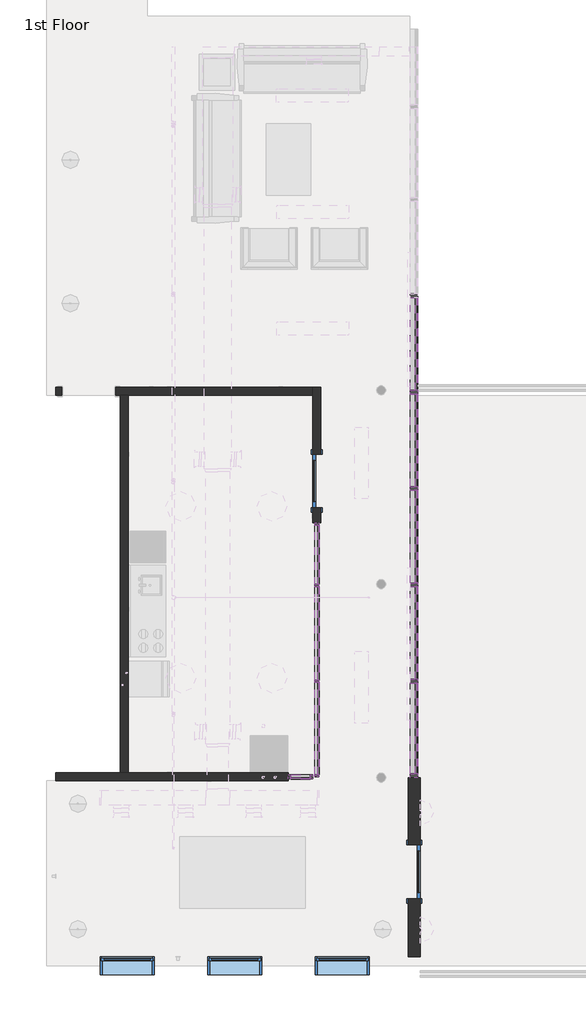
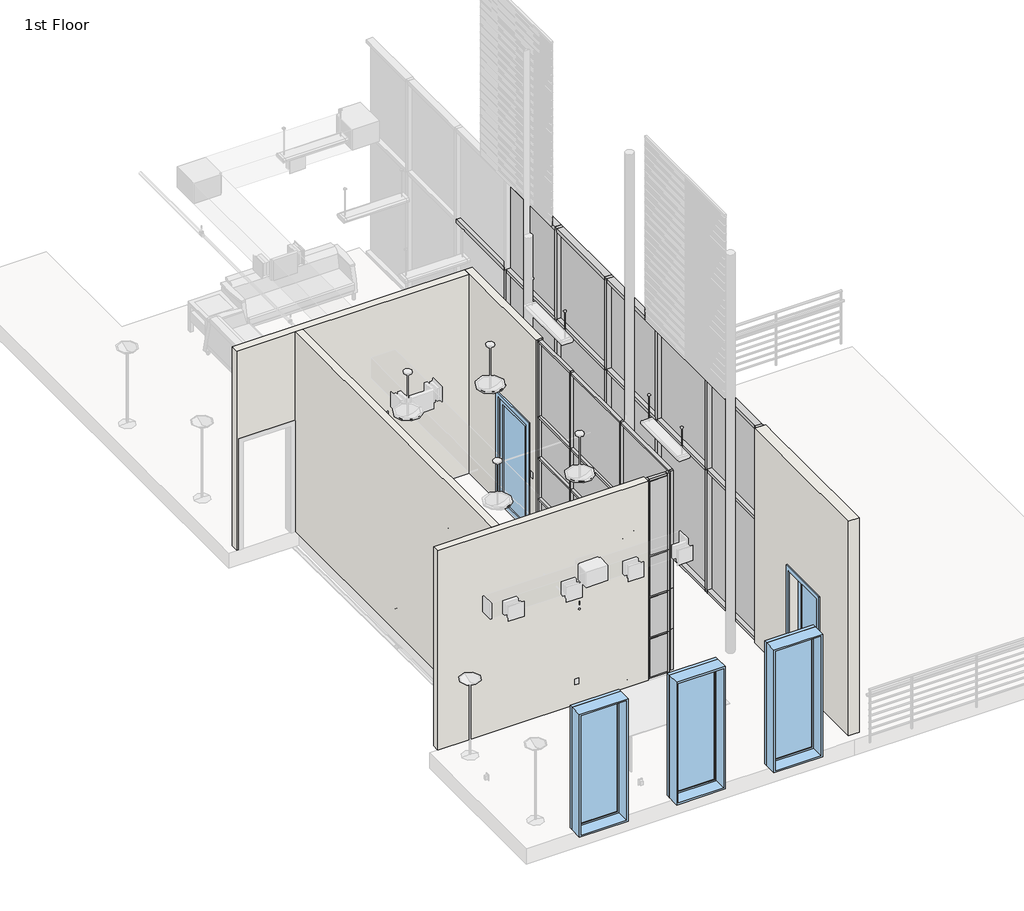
# One storey, part 1 of 4: 71 members, 26 plates, 5 walls, 5 windows.
"""IFC4 building model written with IfcOpenShell, lengths in millimetres."""

from ifc_helpers import new_model, si_unit, frame, origin, place, context, project, spatial, polyline, outline, extrude, faceted_brep, transform, mapped, element, save
from components import member_155beb68, member_b87a50da, member_3d7f9b7e, member_a096cd44, member_be47aeaa, member_5efed619, member_481e25ef, member_17fda1fe, member_40da84cb, member_2046a979, member_b31159f8, member_b36b38ba, member_d60e8053, member_2fae0574, member_7ffb4a7b, member_f0fea5a5, member_591cd9a7, member_ec06d1cd, member_6ce1ec76, member_ee409385, system_panel_system_panel_37b3a9aa, system_panel_system_panel_380796df, system_panel_system_panel_9bcd561b, system_panel_system_panel_56f1232b, system_panel_system_panel_8c290c1e, system_panel_system_panel_41236b11, system_panel_system_panel_6c834083, system_panel_system_panel_459aa32f, system_panel_system_panel_5d59a0b6, system_panel_system_panel_d2f40076, system_panel_system_panel_36b3ad26, system_panel_system_panel_1b284ea7, system_panel_system_panel_dfb6c3b7, system_panel_system_panel_f518bfc7, system_panel_system_panel_9512511a, system_panel_system_panel_b5158d26, window_9a11fba4, window_57972af0, window_99bce362, window_e49b49a8

model = new_model("IFC4")

# Units and contexts
model_context = context("Model", 3, world=origin())
ifc_project = project(units=[si_unit("LENGTHUNIT", "METRE", prefix="MILLI")], contexts=[model_context])

# Site, building, storey
site = spatial("IfcSite", under=ifc_project)
building = spatial("IfcBuilding", under=site)
storey = spatial("IfcBuildingStorey", under=building, Name="1st Floor", Elevation=3657.6)

# Members
placement = place(None, origin())
member_shape = member_155beb68(model_context)
element("IfcMember", 1, ObjectType="Rectangular Mullion : 1.5\" x 2.5\" rectangular", at=placement, inside=storey, context=model_context, shape_type="MappedRepresentation", body=[
    mapped(member_shape, transform((-25.1604947, -371.7689983, 6096.0), x_axis=(0.0, -1.0, 0.0), y_axis=(-1.0, 0.0, 0.0), z_axis=(0.0, 0.0, -1.0))),
])
element("IfcMember", 2, ObjectType="Rectangular Mullion : 1.5\" x 2.5\" rectangular", at=placement, inside=storey, context=model_context, shape_type="MappedRepresentation", body=[
    mapped(member_shape, transform((-25.1604947, -1997.3689983, 6096.0), x_axis=(0.0, -1.0, 0.0), y_axis=(-1.0, 0.0, 0.0), z_axis=(0.0, 0.0, -1.0))),
])
member_2_shape = member_b87a50da(model_context)
element("IfcMember", 3, ObjectType="Rectangular Mullion : 1.5\" x 2.5\" rectangular", at=placement, inside=storey, context=model_context, shape_type="MappedRepresentation", body=[
    mapped(member_2_shape, transform((-25.1604947, 695.0310017, 7620.0), x_axis=(0.0, 1.0, 0.0), y_axis=(-1.0, 0.0, 0.0), z_axis=(0.0, 0.0, 1.0))),
])
element("IfcMember", 4, ObjectType="Rectangular Mullion : 1.5\" x 2.5\" rectangular", at=placement, inside=storey, context=model_context, shape_type="MappedRepresentation", body=[
    mapped(member_2_shape, transform((-95.0104947, -3622.9689983, 7620.0), x_axis=(1.0, 0.0, 0.0), y_axis=(0.0, 1.0, 0.0), z_axis=(0.0, 0.0, 1.0))),
])
element("IfcMember", 5, ObjectType="Rectangular Mullion : 1.5\" x 2.5\" rectangular", at=placement, inside=storey, context=model_context, shape_type="MappedRepresentation", body=[
    mapped(member_2_shape, transform((-25.1604947, -3622.9689983, 6096.0), x_axis=(0.0, -1.0, 0.0), y_axis=(-1.0, 0.0, 0.0), z_axis=(0.0, 0.0, -1.0))),
])
element("IfcMember", 6, ObjectType="Rectangular Mullion : 1.5\" x 2.5\" rectangular", at=placement, inside=storey, context=model_context, shape_type="MappedRepresentation", body=[
    mapped(member_2_shape, transform((-507.7604947, -3622.9689983, 6096.0), x_axis=(-1.0, 0.0, 0.0), y_axis=(0.0, 1.0, 0.0), z_axis=(0.0, 0.0, -1.0))),
])
member_3_shape = member_3d7f9b7e(model_context)
element("IfcMember", 7, ObjectType="Rectangular Mullion : 1.5\" x 2.5\" rectangular", at=placement, inside=storey, context=model_context, shape_type="MappedRepresentation", body=[
    mapped(member_3_shape, transform((-25.1604947, -352.7189983, 7620.0), x_axis=(0.0, 0.0, 1.0), y_axis=(-1.0, 0.0, 0.0), z_axis=(0.0, -1.0, 0.0))),
])
member_4_shape = member_a096cd44(model_context)
element("IfcMember", 8, ObjectType="Rectangular Mullion : 1.5\" x 2.5\" rectangular", at=placement, inside=storey, context=model_context, shape_type="MappedRepresentation", body=[
    mapped(member_4_shape, transform((-25.1604947, -3584.8689983, 7620.0), x_axis=(0.0, 0.0, 1.0), y_axis=(-1.0, 0.0, 0.0), z_axis=(0.0, -1.0, 0.0))),
])
member_5_shape = member_be47aeaa(model_context)
element("IfcMember", 9, ObjectType="Rectangular Mullion : 1.5\" x 2.5\" rectangular", at=placement, inside=storey, context=model_context, shape_type="MappedRepresentation", body=[
    mapped(member_5_shape, transform((-25.1604947, -371.7689983, 3657.6), x_axis=(0.0, -1.0, 0.0), y_axis=(-1.0, 0.0, 0.0), z_axis=(0.0, 0.0, -1.0))),
])
element("IfcMember", 10, ObjectType="Rectangular Mullion : 1.5\" x 2.5\" rectangular", at=placement, inside=storey, context=model_context, shape_type="MappedRepresentation", body=[
    mapped(member_5_shape, transform((-25.1604947, -1997.3689983, 3657.6), x_axis=(0.0, -1.0, 0.0), y_axis=(-1.0, 0.0, 0.0), z_axis=(0.0, 0.0, -1.0))),
])
member_6_shape = member_5efed619(model_context)
element("IfcMember", 11, ObjectType="Rectangular Mullion : 1.5\" x 2.5\" rectangular", at=placement, inside=storey, context=model_context, shape_type="MappedRepresentation", body=[
    mapped(member_6_shape, transform((-25.1604947, -352.7189983, 6096.0), x_axis=(0.0, 0.0, 1.0), y_axis=(-1.0, 0.0, 0.0), z_axis=(0.0, -1.0, 0.0))),
])
element("IfcMember", 12, ObjectType="Rectangular Mullion : 1.5\" x 2.5\" rectangular", at=placement, inside=storey, context=model_context, shape_type="MappedRepresentation", body=[
    mapped(member_6_shape, transform((-25.1604947, -352.7189983, 5283.2), x_axis=(0.0, 0.0, 1.0), y_axis=(-1.0, 0.0, 0.0), z_axis=(0.0, -1.0, 0.0))),
])
element("IfcMember", 13, ObjectType="Rectangular Mullion : 1.5\" x 2.5\" rectangular", at=placement, inside=storey, context=model_context, shape_type="MappedRepresentation", body=[
    mapped(member_6_shape, transform((-25.1604947, -352.7189983, 4470.4), x_axis=(0.0, 0.0, 1.0), y_axis=(-1.0, 0.0, 0.0), z_axis=(0.0, -1.0, 0.0))),
])
member_7_shape = member_481e25ef(model_context)
element("IfcMember", 14, ObjectType="Rectangular Mullion : 1.5\" x 2.5\" rectangular", at=placement, inside=storey, context=model_context, shape_type="MappedRepresentation", body=[
    mapped(member_7_shape, transform((-25.1604947, -1978.3189983, 6096.0), x_axis=(0.0, 0.0, 1.0), y_axis=(-1.0, 0.0, 0.0), z_axis=(0.0, -1.0, 0.0))),
])
element("IfcMember", 15, ObjectType="Rectangular Mullion : 1.5\" x 2.5\" rectangular", at=placement, inside=storey, context=model_context, shape_type="MappedRepresentation", body=[
    mapped(member_7_shape, transform((-25.1604947, -1978.3189983, 5283.2), x_axis=(0.0, 0.0, 1.0), y_axis=(-1.0, 0.0, 0.0), z_axis=(0.0, -1.0, 0.0))),
])
element("IfcMember", 16, ObjectType="Rectangular Mullion : 1.5\" x 2.5\" rectangular", at=placement, inside=storey, context=model_context, shape_type="MappedRepresentation", body=[
    mapped(member_7_shape, transform((-25.1604947, -1978.3189983, 4470.4), x_axis=(0.0, 0.0, 1.0), y_axis=(-1.0, 0.0, 0.0), z_axis=(0.0, -1.0, 0.0))),
])
member_8_shape = member_17fda1fe(model_context)
element("IfcMember", 17, ObjectType="Rectangular Mullion : 1.5\" x 2.5\" rectangular", at=placement, inside=storey, context=model_context, shape_type="MappedRepresentation", body=[
    mapped(member_8_shape, transform((-25.1604947, -3584.8689983, 6096.0), x_axis=(0.0, 0.0, 1.0), y_axis=(-1.0, 0.0, 0.0), z_axis=(0.0, -1.0, 0.0))),
])
element("IfcMember", 18, ObjectType="Rectangular Mullion : 1.5\" x 2.5\" rectangular", at=placement, inside=storey, context=model_context, shape_type="MappedRepresentation", body=[
    mapped(member_8_shape, transform((-25.1604947, -3584.8689983, 5283.2), x_axis=(0.0, 0.0, 1.0), y_axis=(-1.0, 0.0, 0.0), z_axis=(0.0, -1.0, 0.0))),
])
element("IfcMember", 19, ObjectType="Rectangular Mullion : 1.5\" x 2.5\" rectangular", at=placement, inside=storey, context=model_context, shape_type="MappedRepresentation", body=[
    mapped(member_8_shape, transform((-25.1604947, -3584.8689983, 4470.4), x_axis=(0.0, 0.0, 1.0), y_axis=(-1.0, 0.0, 0.0), z_axis=(0.0, -1.0, 0.0))),
])
member_9_shape = member_40da84cb(model_context)
element("IfcMember", 20, ObjectType="Rectangular Mullion : 1.5\" x 2.5\" rectangular", at=placement, inside=storey, context=model_context, shape_type="MappedRepresentation", body=[
    mapped(member_9_shape, transform((-25.1604947, -1978.3189983, 7620.0), x_axis=(0.0, 0.0, 1.0), y_axis=(-1.0, 0.0, 0.0), z_axis=(0.0, -1.0, 0.0))),
])
element("IfcMember", 21, ObjectType="Rectangular Mullion : 1.5\" x 2.5\" rectangular", at=placement, inside=storey, context=model_context, shape_type="MappedRepresentation", body=[
    mapped(member_5_shape, transform((-25.1604947, -371.7689983, 5283.2), x_axis=(0.0, -1.0, 0.0), y_axis=(-1.0, 0.0, 0.0), z_axis=(0.0, 0.0, -1.0))),
])
element("IfcMember", 22, ObjectType="Rectangular Mullion : 1.5\" x 2.5\" rectangular", at=placement, inside=storey, context=model_context, shape_type="MappedRepresentation", body=[
    mapped(member_5_shape, transform((-25.1604947, -371.7689983, 4470.4), x_axis=(0.0, -1.0, 0.0), y_axis=(-1.0, 0.0, 0.0), z_axis=(0.0, 0.0, -1.0))),
])
element("IfcMember", 23, ObjectType="Rectangular Mullion : 1.5\" x 2.5\" rectangular", at=placement, inside=storey, context=model_context, shape_type="MappedRepresentation", body=[
    mapped(member_5_shape, transform((-25.1604947, -1997.3689983, 5283.2), x_axis=(0.0, -1.0, 0.0), y_axis=(-1.0, 0.0, 0.0), z_axis=(0.0, 0.0, -1.0))),
])
element("IfcMember", 24, ObjectType="Rectangular Mullion : 1.5\" x 2.5\" rectangular", at=placement, inside=storey, context=model_context, shape_type="MappedRepresentation", body=[
    mapped(member_5_shape, transform((-25.1604947, -1997.3689983, 4470.4), x_axis=(0.0, -1.0, 0.0), y_axis=(-1.0, 0.0, 0.0), z_axis=(0.0, 0.0, -1.0))),
])
member_10_shape = member_2046a979(model_context)
element("IfcMember", 25, ObjectType="Rectangular Mullion : 1.5\" x 2.5\" rectangular", at=placement, inside=storey, context=model_context, shape_type="MappedRepresentation", body=[
    mapped(member_10_shape, transform((-25.1604947, -3622.9689983, 3657.6), x_axis=(0.0, -1.0, 0.0), y_axis=(-1.0, 0.0, 0.0), z_axis=(0.0, 0.0, -1.0))),
])
element("IfcMember", 26, ObjectType="Rectangular Mullion : 1.5\" x 2.5\" rectangular", at=placement, inside=storey, context=model_context, shape_type="MappedRepresentation", body=[
    mapped(member_10_shape, transform((-507.7604947, -3622.9689983, 3657.6), x_axis=(-1.0, 0.0, 0.0), y_axis=(0.0, 1.0, 0.0), z_axis=(0.0, 0.0, -1.0))),
])
element("IfcMember", 27, ObjectType="Rectangular Mullion : 1.5\" x 2.5\" rectangular", at=placement, inside=storey, context=model_context, shape_type="MappedRepresentation", body=[
    mapped(member_10_shape, transform((-25.1604947, -3622.9689983, 5283.2), x_axis=(0.0, -1.0, 0.0), y_axis=(-1.0, 0.0, 0.0), z_axis=(0.0, 0.0, -1.0))),
])
element("IfcMember", 28, ObjectType="Rectangular Mullion : 1.5\" x 2.5\" rectangular", at=placement, inside=storey, context=model_context, shape_type="MappedRepresentation", body=[
    mapped(member_10_shape, transform((-25.1604947, -3622.9689983, 4470.4), x_axis=(0.0, -1.0, 0.0), y_axis=(-1.0, 0.0, 0.0), z_axis=(0.0, 0.0, -1.0))),
])
element("IfcMember", 29, ObjectType="Rectangular Mullion : 1.5\" x 2.5\" rectangular", at=placement, inside=storey, context=model_context, shape_type="MappedRepresentation", body=[
    mapped(member_10_shape, transform((-507.7604947, -3622.9689983, 5283.2), x_axis=(-1.0, 0.0, 0.0), y_axis=(0.0, 1.0, 0.0), z_axis=(0.0, 0.0, -1.0))),
])
element("IfcMember", 30, ObjectType="Rectangular Mullion : 1.5\" x 2.5\" rectangular", at=placement, inside=storey, context=model_context, shape_type="MappedRepresentation", body=[
    mapped(member_10_shape, transform((-507.7604947, -3622.9689983, 4470.4), x_axis=(-1.0, 0.0, 0.0), y_axis=(0.0, 1.0, 0.0), z_axis=(0.0, 0.0, -1.0))),
])
member_11_shape = member_b31159f8(model_context)
element("IfcMember", 31, ObjectType="Rectangular Mullion : 1.5\" x 2.5\" rectangular", at=placement, inside=storey, context=model_context, shape_type="MappedRepresentation", body=[
    mapped(member_11_shape, transform((-469.6604947, -3622.9689983, 7620.0), x_axis=(0.0, 0.0, 1.0), y_axis=(0.0, 1.0, 0.0), z_axis=(-1.0, 0.0, 0.0))),
])
member_12_shape = member_b36b38ba(model_context)
element("IfcMember", 32, ObjectType="Rectangular Mullion : 1.5\" x 2.5\" rectangular", at=placement, inside=storey, context=model_context, shape_type="MappedRepresentation", body=[
    mapped(member_12_shape, transform((-469.6604947, -3622.9689983, 6096.0), x_axis=(0.0, 0.0, 1.0), y_axis=(0.0, 1.0, 0.0), z_axis=(-1.0, 0.0, 0.0))),
])
element("IfcMember", 33, ObjectType="Rectangular Mullion : 1.5\" x 2.5\" rectangular", at=placement, inside=storey, context=model_context, shape_type="MappedRepresentation", body=[
    mapped(member_12_shape, transform((-469.6604947, -3622.9689983, 5283.2), x_axis=(0.0, 0.0, 1.0), y_axis=(0.0, 1.0, 0.0), z_axis=(-1.0, 0.0, 0.0))),
])
element("IfcMember", 34, ObjectType="Rectangular Mullion : 1.5\" x 2.5\" rectangular", at=placement, inside=storey, context=model_context, shape_type="MappedRepresentation", body=[
    mapped(member_12_shape, transform((-469.6604947, -3622.9689983, 4470.4), x_axis=(0.0, 0.0, 1.0), y_axis=(0.0, 1.0, 0.0), z_axis=(-1.0, 0.0, 0.0))),
])
element("IfcMember", 35, ObjectType="Rectangular Mullion : 1.5\" x 2.5\" rectangular", at=placement, inside=storey, context=model_context, shape_type="MappedRepresentation", body=[
    mapped(member_11_shape, transform((-133.1104947, -3622.9689983, 3657.6), x_axis=(0.0, 0.0, -1.0), y_axis=(0.0, 1.0, 0.0), z_axis=(1.0, 0.0, 0.0))),
])
element("IfcMember", 36, ObjectType="Rectangular Mullion : 1.5\" x 2.5\" rectangular", at=placement, inside=storey, context=model_context, shape_type="MappedRepresentation", body=[
    mapped(member_3_shape, transform((-25.1604947, 656.9310017, 3657.6), x_axis=(0.0, 0.0, -1.0), y_axis=(-1.0, 0.0, 0.0), z_axis=(0.0, 1.0, 0.0))),
])
element("IfcMember", 37, ObjectType="Rectangular Mullion : 1.5\" x 2.5\" rectangular", at=placement, inside=storey, context=model_context, shape_type="MappedRepresentation", body=[
    mapped(member_9_shape, transform((-25.1604947, -390.8189983, 3657.6), x_axis=(0.0, 0.0, -1.0), y_axis=(-1.0, 0.0, 0.0), z_axis=(0.0, 1.0, 0.0))),
])
element("IfcMember", 38, ObjectType="Rectangular Mullion : 1.5\" x 2.5\" rectangular", at=placement, inside=storey, context=model_context, shape_type="MappedRepresentation", body=[
    mapped(member_4_shape, transform((-25.1604947, -2016.4189983, 3657.6), x_axis=(0.0, 0.0, -1.0), y_axis=(-1.0, 0.0, 0.0), z_axis=(0.0, 1.0, 0.0))),
])
element("IfcMember", 39, ObjectType="Rectangular Mullion : 1.5\" x 2.5\" rectangular", at=placement, inside=storey, context=model_context, shape_type="MappedRepresentation", body=[
    mapped(member_10_shape, transform((-25.1604947, 695.0310017, 6096.0), x_axis=(0.0, 1.0, 0.0), y_axis=(-1.0, 0.0, 0.0), z_axis=(0.0, 0.0, 1.0))),
])
element("IfcMember", 40, ObjectType="Rectangular Mullion : 1.5\" x 2.5\" rectangular", at=placement, inside=storey, context=model_context, shape_type="MappedRepresentation", body=[
    mapped(member_10_shape, transform((-25.1604947, 695.0310017, 5283.2), x_axis=(0.0, 1.0, 0.0), y_axis=(-1.0, 0.0, 0.0), z_axis=(0.0, 0.0, 1.0))),
])
element("IfcMember", 41, ObjectType="Rectangular Mullion : 1.5\" x 2.5\" rectangular", at=placement, inside=storey, context=model_context, shape_type="MappedRepresentation", body=[
    mapped(member_10_shape, transform((-95.0104947, -3622.9689983, 6096.0), x_axis=(1.0, 0.0, 0.0), y_axis=(0.0, 1.0, 0.0), z_axis=(0.0, 0.0, 1.0))),
])
element("IfcMember", 42, ObjectType="Rectangular Mullion : 1.5\" x 2.5\" rectangular", at=placement, inside=storey, context=model_context, shape_type="MappedRepresentation", body=[
    mapped(member_10_shape, transform((-95.0104947, -3622.9689983, 5283.2), x_axis=(1.0, 0.0, 0.0), y_axis=(0.0, 1.0, 0.0), z_axis=(0.0, 0.0, 1.0))),
])
element("IfcMember", 43, ObjectType="Rectangular Mullion : 1.5\" x 2.5\" rectangular", at=placement, inside=storey, context=model_context, shape_type="MappedRepresentation", body=[
    mapped(member_10_shape, transform((-25.1604947, 695.0310017, 4470.4), x_axis=(0.0, 1.0, 0.0), y_axis=(-1.0, 0.0, 0.0), z_axis=(0.0, 0.0, 1.0))),
])
element("IfcMember", 44, ObjectType="Rectangular Mullion : 1.5\" x 2.5\" rectangular", at=placement, inside=storey, context=model_context, shape_type="MappedRepresentation", body=[
    mapped(member_10_shape, transform((-95.0104947, -3622.9689983, 4470.4), x_axis=(1.0, 0.0, 0.0), y_axis=(0.0, 1.0, 0.0), z_axis=(0.0, 0.0, 1.0))),
])
member_13_shape = member_d60e8053(model_context)
element("IfcMember", 45, ObjectType="Rectangular Mullion : 2.5\" x 5\" rectangular", at=placement, inside=storey, context=model_context, shape_type="MappedRepresentation", body=[
    mapped(member_13_shape, transform((1628.9560388, 2916.659643, 6096.0), x_axis=(0.0, -1.0, 0.0), y_axis=(-1.0, 0.0, 0.0), z_axis=(0.0, 0.0, -1.0))),
])
element("IfcMember", 46, ObjectType="Rectangular Mullion : 2.5\" x 5\" rectangular", at=placement, inside=storey, context=model_context, shape_type="MappedRepresentation", body=[
    mapped(member_13_shape, transform((1628.9560388, -359.940357, 6096.0), x_axis=(0.0, -1.0, 0.0), y_axis=(-1.0, 0.0, 0.0), z_axis=(0.0, 0.0, -1.0))),
])
element("IfcMember", 47, ObjectType="Rectangular Mullion : 2.5\" x 5\" rectangular", at=placement, inside=storey, context=model_context, shape_type="MappedRepresentation", body=[
    mapped(member_13_shape, transform((1628.9560388, -1998.240357, 6096.0), x_axis=(0.0, -1.0, 0.0), y_axis=(-1.0, 0.0, 0.0), z_axis=(0.0, 0.0, -1.0))),
])
element("IfcMember", 48, ObjectType="Rectangular Mullion : 2.5\" x 5\" rectangular", at=placement, inside=storey, context=model_context, shape_type="MappedRepresentation", body=[
    mapped(member_13_shape, transform((1628.9560388, 1278.359643, 6096.0), x_axis=(0.0, -1.0, 0.0), y_axis=(-1.0, 0.0, 0.0), z_axis=(0.0, 0.0, -1.0))),
])
member_14_shape = member_2fae0574(model_context)
element("IfcMember", 49, ObjectType="Rectangular Mullion : 2.5\" x 5\" rectangular", at=placement, inside=storey, context=model_context, shape_type="MappedRepresentation", body=[
    mapped(member_14_shape, transform((1628.9560388, -3636.540357, 6096.0), x_axis=(0.0, -1.0, 0.0), y_axis=(-1.0, 0.0, 0.0), z_axis=(0.0, 0.0, -1.0))),
])
member_15_shape = member_7ffb4a7b(model_context)
element("IfcMember", 50, ObjectType="Rectangular Mullion : 2.5\" x 5\" rectangular", at=placement, inside=storey, context=model_context, shape_type="MappedRepresentation", body=[
    mapped(member_15_shape, transform((1628.9560388, -3573.040357, 7924.8), x_axis=(0.0, 0.0, 1.0), y_axis=(-1.0, 0.0, 0.0), z_axis=(0.0, -1.0, 0.0))),
])
member_16_shape = member_f0fea5a5(model_context)
element("IfcMember", 51, ObjectType="Rectangular Mullion : 2.5\" x 5\" rectangular", at=placement, inside=storey, context=model_context, shape_type="MappedRepresentation", body=[
    mapped(member_16_shape, transform((1628.9560388, 2916.659643, 3657.6), x_axis=(0.0, -1.0, 0.0), y_axis=(-1.0, 0.0, 0.0), z_axis=(0.0, 0.0, -1.0))),
])
element("IfcMember", 52, ObjectType="Rectangular Mullion : 2.5\" x 5\" rectangular", at=placement, inside=storey, context=model_context, shape_type="MappedRepresentation", body=[
    mapped(member_16_shape, transform((1628.9560388, -359.940357, 3657.6), x_axis=(0.0, -1.0, 0.0), y_axis=(-1.0, 0.0, 0.0), z_axis=(0.0, 0.0, -1.0))),
])
element("IfcMember", 53, ObjectType="Rectangular Mullion : 2.5\" x 5\" rectangular", at=placement, inside=storey, context=model_context, shape_type="MappedRepresentation", body=[
    mapped(member_16_shape, transform((1628.9560388, -1998.240357, 3657.6), x_axis=(0.0, -1.0, 0.0), y_axis=(-1.0, 0.0, 0.0), z_axis=(0.0, 0.0, -1.0))),
])
element("IfcMember", 54, ObjectType="Rectangular Mullion : 2.5\" x 5\" rectangular", at=placement, inside=storey, context=model_context, shape_type="MappedRepresentation", body=[
    mapped(member_16_shape, transform((1628.9560388, 1278.359643, 3657.6), x_axis=(0.0, -1.0, 0.0), y_axis=(-1.0, 0.0, 0.0), z_axis=(0.0, 0.0, -1.0))),
])
element("IfcMember", 55, ObjectType="Rectangular Mullion : 2.5\" x 5\" rectangular", at=placement, inside=storey, context=model_context, shape_type="MappedRepresentation", body=[
    mapped(member_16_shape, transform((1628.9560388, 4554.959643, 3657.6), x_axis=(0.0, -1.0, 0.0), y_axis=(-1.0, 0.0, 0.0), z_axis=(0.0, 0.0, -1.0))),
])
member_17_shape = member_591cd9a7(model_context)
element("IfcMember", 56, ObjectType="Rectangular Mullion : 2.5\" x 5\" rectangular", at=placement, inside=storey, context=model_context, shape_type="MappedRepresentation", body=[
    mapped(member_17_shape, transform((1628.9560388, 1310.109643, 6096.0), x_axis=(0.0, 0.0, 1.0), y_axis=(-1.0, 0.0, 0.0), z_axis=(0.0, -1.0, 0.0))),
])
element("IfcMember", 57, ObjectType="Rectangular Mullion : 2.5\" x 5\" rectangular", at=placement, inside=storey, context=model_context, shape_type="MappedRepresentation", body=[
    mapped(member_17_shape, transform((1628.9560388, 4586.709643, 6096.0), x_axis=(0.0, 0.0, 1.0), y_axis=(-1.0, 0.0, 0.0), z_axis=(0.0, -1.0, 0.0))),
])
element("IfcMember", 58, ObjectType="Rectangular Mullion : 2.5\" x 5\" rectangular", at=placement, inside=storey, context=model_context, shape_type="MappedRepresentation", body=[
    mapped(member_17_shape, transform((1628.9560388, -1966.490357, 6096.0), x_axis=(0.0, 0.0, 1.0), y_axis=(-1.0, 0.0, 0.0), z_axis=(0.0, -1.0, 0.0))),
])
element("IfcMember", 59, ObjectType="Rectangular Mullion : 2.5\" x 5\" rectangular", at=placement, inside=storey, context=model_context, shape_type="MappedRepresentation", body=[
    mapped(member_17_shape, transform((1628.9560388, -328.190357, 6096.0), x_axis=(0.0, 0.0, 1.0), y_axis=(-1.0, 0.0, 0.0), z_axis=(0.0, -1.0, 0.0))),
])
element("IfcMember", 60, ObjectType="Rectangular Mullion : 2.5\" x 5\" rectangular", at=placement, inside=storey, context=model_context, shape_type="MappedRepresentation", body=[
    mapped(member_17_shape, transform((1628.9560388, 2948.409643, 6096.0), x_axis=(0.0, 0.0, 1.0), y_axis=(-1.0, 0.0, 0.0), z_axis=(0.0, -1.0, 0.0))),
])
member_18_shape = member_ec06d1cd(model_context)
element("IfcMember", 61, ObjectType="Rectangular Mullion : 2.5\" x 5\" rectangular", at=placement, inside=storey, context=model_context, shape_type="MappedRepresentation", body=[
    mapped(member_18_shape, transform((1628.9560388, -3573.040357, 6096.0), x_axis=(0.0, 0.0, 1.0), y_axis=(-1.0, 0.0, 0.0), z_axis=(0.0, -1.0, 0.0))),
])
member_19_shape = member_6ce1ec76(model_context)
element("IfcMember", 62, ObjectType="Rectangular Mullion : 2.5\" x 5\" rectangular", at=placement, inside=storey, context=model_context, shape_type="MappedRepresentation", body=[
    mapped(member_19_shape, transform((1628.9560388, 2948.409643, 7924.8), x_axis=(0.0, 0.0, 1.0), y_axis=(-1.0, 0.0, 0.0), z_axis=(0.0, -1.0, 0.0))),
])
element("IfcMember", 63, ObjectType="Rectangular Mullion : 2.5\" x 5\" rectangular", at=placement, inside=storey, context=model_context, shape_type="MappedRepresentation", body=[
    mapped(member_19_shape, transform((1628.9560388, -328.190357, 7924.8), x_axis=(0.0, 0.0, 1.0), y_axis=(-1.0, 0.0, 0.0), z_axis=(0.0, -1.0, 0.0))),
])
element("IfcMember", 64, ObjectType="Rectangular Mullion : 2.5\" x 5\" rectangular", at=placement, inside=storey, context=model_context, shape_type="MappedRepresentation", body=[
    mapped(member_19_shape, transform((1628.9560388, -1966.490357, 7924.8), x_axis=(0.0, 0.0, 1.0), y_axis=(-1.0, 0.0, 0.0), z_axis=(0.0, -1.0, 0.0))),
])
element("IfcMember", 65, ObjectType="Rectangular Mullion : 2.5\" x 5\" rectangular", at=placement, inside=storey, context=model_context, shape_type="MappedRepresentation", body=[
    mapped(member_19_shape, transform((1628.9560388, 1310.109643, 7924.8), x_axis=(0.0, 0.0, 1.0), y_axis=(-1.0, 0.0, 0.0), z_axis=(0.0, -1.0, 0.0))),
])
member_20_shape = member_ee409385(model_context)
element("IfcMember", 66, ObjectType="Rectangular Mullion : 2.5\" x 5\" rectangular", at=placement, inside=storey, context=model_context, shape_type="MappedRepresentation", body=[
    mapped(member_20_shape, transform((1628.9560388, -3636.540357, 3657.6), x_axis=(0.0, -1.0, 0.0), y_axis=(-1.0, 0.0, 0.0), z_axis=(0.0, 0.0, -1.0))),
])
element("IfcMember", 67, ObjectType="Rectangular Mullion : 2.5\" x 5\" rectangular", at=placement, inside=storey, context=model_context, shape_type="MappedRepresentation", body=[
    mapped(member_19_shape, transform((1628.9560388, 2884.909643, 3657.6), x_axis=(0.0, 0.0, -1.0), y_axis=(-1.0, 0.0, 0.0), z_axis=(0.0, 1.0, 0.0))),
])
element("IfcMember", 68, ObjectType="Rectangular Mullion : 2.5\" x 5\" rectangular", at=placement, inside=storey, context=model_context, shape_type="MappedRepresentation", body=[
    mapped(member_19_shape, transform((1628.9560388, -391.690357, 3657.6), x_axis=(0.0, 0.0, -1.0), y_axis=(-1.0, 0.0, 0.0), z_axis=(0.0, 1.0, 0.0))),
])
element("IfcMember", 69, ObjectType="Rectangular Mullion : 2.5\" x 5\" rectangular", at=placement, inside=storey, context=model_context, shape_type="MappedRepresentation", body=[
    mapped(member_19_shape, transform((1628.9560388, 1246.609643, 3657.6), x_axis=(0.0, 0.0, -1.0), y_axis=(-1.0, 0.0, 0.0), z_axis=(0.0, 1.0, 0.0))),
])
element("IfcMember", 70, ObjectType="Rectangular Mullion : 2.5\" x 5\" rectangular", at=placement, inside=storey, context=model_context, shape_type="MappedRepresentation", body=[
    mapped(member_19_shape, transform((1628.9560388, 4523.209643, 3657.6), x_axis=(0.0, 0.0, -1.0), y_axis=(-1.0, 0.0, 0.0), z_axis=(0.0, 1.0, 0.0))),
])
element("IfcMember", 71, ObjectType="Rectangular Mullion : 2.5\" x 5\" rectangular", at=placement, inside=storey, context=model_context, shape_type="MappedRepresentation", body=[
    mapped(member_15_shape, transform((1628.9560388, -2029.990357, 3657.6), x_axis=(0.0, 0.0, -1.0), y_axis=(-1.0, 0.0, 0.0), z_axis=(0.0, 1.0, 0.0))),
])

# Plates
system_panel_system_panel_shape = system_panel_system_panel_37b3a9aa(model_context)
element("IfcPlate", 72, ObjectType="System Panel : System Panel", at=placement, inside=storey, context=model_context, shape_type="MappedRepresentation", body=[
    mapped(system_panel_system_panel_shape, transform((1628.9560388, 2097.509643, 6127.75), x_axis=(0.0, -1.0, 0.0), y_axis=(1.0, 0.0, 0.0), z_axis=(0.0, 0.0, 1.0))),
])
element("IfcPlate", 73, ObjectType="System Panel : System Panel", at=placement, inside=storey, context=model_context, shape_type="MappedRepresentation", body=[
    mapped(system_panel_system_panel_shape, transform((1628.9560388, -1179.090357, 6127.75), x_axis=(0.0, -1.0, 0.0), y_axis=(1.0, 0.0, 0.0), z_axis=(0.0, 0.0, 1.0))),
])
element("IfcPlate", 74, ObjectType="System Panel : System Panel", at=placement, inside=storey, context=model_context, shape_type="MappedRepresentation", body=[
    mapped(system_panel_system_panel_shape, transform((1628.9560388, 459.209643, 6127.75), x_axis=(0.0, -1.0, 0.0), y_axis=(1.0, 0.0, 0.0), z_axis=(0.0, 0.0, 1.0))),
])
element("IfcPlate", 75, ObjectType="System Panel : System Panel", at=placement, inside=storey, context=model_context, shape_type="MappedRepresentation", body=[
    mapped(system_panel_system_panel_shape, transform((1628.9560388, 3735.809643, 6127.75), x_axis=(0.0, -1.0, 0.0), y_axis=(1.0, 0.0, 0.0), z_axis=(0.0, 0.0, 1.0))),
])
system_panel_system_panel_2_shape = system_panel_system_panel_380796df(model_context)
element("IfcPlate", 76, ObjectType="System Panel : System Panel", at=placement, inside=storey, context=model_context, shape_type="MappedRepresentation", body=[
    mapped(system_panel_system_panel_2_shape, transform((1628.9560388, -2801.515357, 6127.75), x_axis=(0.0, -1.0, 0.0), y_axis=(1.0, 0.0, 0.0), z_axis=(0.0, 0.0, 1.0))),
])
system_panel_system_panel_3_shape = system_panel_system_panel_9bcd561b(model_context)
element("IfcPlate", 77, ObjectType="System Panel : System Panel", at=placement, inside=storey, context=model_context, shape_type="MappedRepresentation", body=[
    mapped(system_panel_system_panel_3_shape, transform((-25.1604947, 152.1060017, 6115.05), x_axis=(0.0, -1.0, 0.0), y_axis=(1.0, 0.0, 0.0), z_axis=(0.0, 0.0, 1.0))),
])
system_panel_system_panel_4_shape = system_panel_system_panel_56f1232b(model_context)
element("IfcPlate", 78, ObjectType="System Panel : System Panel", at=placement, inside=storey, context=model_context, shape_type="MappedRepresentation", body=[
    mapped(system_panel_system_panel_4_shape, transform((-25.1604947, -1184.5689983, 6115.05), x_axis=(0.0, -1.0, 0.0), y_axis=(1.0, 0.0, 0.0), z_axis=(0.0, 0.0, 1.0))),
])
system_panel_system_panel_5_shape = system_panel_system_panel_8c290c1e(model_context)
element("IfcPlate", 79, ObjectType="System Panel : System Panel", at=placement, inside=storey, context=model_context, shape_type="MappedRepresentation", body=[
    mapped(system_panel_system_panel_5_shape, transform((-25.1604947, -2800.6439983, 6115.05), x_axis=(0.0, -1.0, 0.0), y_axis=(1.0, 0.0, 0.0), z_axis=(0.0, 0.0, 1.0))),
])
system_panel_system_panel_6_shape = system_panel_system_panel_41236b11(model_context)
element("IfcPlate", 80, ObjectType="System Panel : System Panel", at=placement, inside=storey, context=model_context, shape_type="MappedRepresentation", body=[
    mapped(system_panel_system_panel_6_shape, transform((-301.3854947, -3622.9689983, 6115.05), x_axis=(-1.0, 0.0, 0.0), y_axis=(0.0, -1.0, 0.0), z_axis=(0.0, 0.0, 1.0))),
])
system_panel_system_panel_7_shape = system_panel_system_panel_6c834083(model_context)
element("IfcPlate", 81, ObjectType="System Panel : System Panel", at=placement, inside=storey, context=model_context, shape_type="MappedRepresentation", body=[
    mapped(system_panel_system_panel_7_shape, transform((1628.9560388, 2097.509643, 3721.1), x_axis=(0.0, -1.0, 0.0), y_axis=(1.0, 0.0, 0.0), z_axis=(0.0, 0.0, 1.0))),
])
element("IfcPlate", 82, ObjectType="System Panel : System Panel", at=placement, inside=storey, context=model_context, shape_type="MappedRepresentation", body=[
    mapped(system_panel_system_panel_7_shape, transform((1628.9560388, -1179.090357, 3721.1), x_axis=(0.0, -1.0, 0.0), y_axis=(1.0, 0.0, 0.0), z_axis=(0.0, 0.0, 1.0))),
])
element("IfcPlate", 83, ObjectType="System Panel : System Panel", at=placement, inside=storey, context=model_context, shape_type="MappedRepresentation", body=[
    mapped(system_panel_system_panel_7_shape, transform((1628.9560388, 459.209643, 3721.1), x_axis=(0.0, -1.0, 0.0), y_axis=(1.0, 0.0, 0.0), z_axis=(0.0, 0.0, 1.0))),
])
element("IfcPlate", 84, ObjectType="System Panel : System Panel", at=placement, inside=storey, context=model_context, shape_type="MappedRepresentation", body=[
    mapped(system_panel_system_panel_7_shape, transform((1628.9560388, 3735.809643, 3721.1), x_axis=(0.0, -1.0, 0.0), y_axis=(1.0, 0.0, 0.0), z_axis=(0.0, 0.0, 1.0))),
])
system_panel_system_panel_8_shape = system_panel_system_panel_459aa32f(model_context)
element("IfcPlate", 85, ObjectType="System Panel : System Panel", at=placement, inside=storey, context=model_context, shape_type="MappedRepresentation", body=[
    mapped(system_panel_system_panel_8_shape, transform((1628.9560388, -2801.515357, 3721.1), x_axis=(0.0, -1.0, 0.0), y_axis=(1.0, 0.0, 0.0), z_axis=(0.0, 0.0, 1.0))),
])
system_panel_system_panel_9_shape = system_panel_system_panel_5d59a0b6(model_context)
element("IfcPlate", 86, ObjectType="System Panel : System Panel", at=placement, inside=storey, context=model_context, shape_type="MappedRepresentation", body=[
    mapped(system_panel_system_panel_9_shape, transform((-25.1604947, 152.1060017, 3695.7), x_axis=(0.0, -1.0, 0.0), y_axis=(1.0, 0.0, 0.0), z_axis=(0.0, 0.0, 1.0))),
])
system_panel_system_panel_10_shape = system_panel_system_panel_d2f40076(model_context)
element("IfcPlate", 87, ObjectType="System Panel : System Panel", at=placement, inside=storey, context=model_context, shape_type="MappedRepresentation", body=[
    mapped(system_panel_system_panel_10_shape, transform((-25.1604947, -1184.5689983, 3695.7), x_axis=(0.0, -1.0, 0.0), y_axis=(1.0, 0.0, 0.0), z_axis=(0.0, 0.0, 1.0))),
])
system_panel_system_panel_11_shape = system_panel_system_panel_36b3ad26(model_context)
element("IfcPlate", 88, ObjectType="System Panel : System Panel", at=placement, inside=storey, context=model_context, shape_type="MappedRepresentation", body=[
    mapped(system_panel_system_panel_11_shape, transform((-25.1604947, -2800.6439983, 3695.7), x_axis=(0.0, -1.0, 0.0), y_axis=(1.0, 0.0, 0.0), z_axis=(0.0, 0.0, 1.0))),
])
system_panel_system_panel_12_shape = system_panel_system_panel_1b284ea7(model_context)
element("IfcPlate", 89, ObjectType="System Panel : System Panel", at=placement, inside=storey, context=model_context, shape_type="MappedRepresentation", body=[
    mapped(system_panel_system_panel_12_shape, transform((-25.1604947, 152.1060017, 5302.25), x_axis=(0.0, -1.0, 0.0), y_axis=(1.0, 0.0, 0.0), z_axis=(0.0, 0.0, 1.0))),
])
element("IfcPlate", 90, ObjectType="System Panel : System Panel", at=placement, inside=storey, context=model_context, shape_type="MappedRepresentation", body=[
    mapped(system_panel_system_panel_12_shape, transform((-25.1604947, 152.1060017, 4489.45), x_axis=(0.0, -1.0, 0.0), y_axis=(1.0, 0.0, 0.0), z_axis=(0.0, 0.0, 1.0))),
])
system_panel_system_panel_13_shape = system_panel_system_panel_dfb6c3b7(model_context)
element("IfcPlate", 91, ObjectType="System Panel : System Panel", at=placement, inside=storey, context=model_context, shape_type="MappedRepresentation", body=[
    mapped(system_panel_system_panel_13_shape, transform((-25.1604947, -1184.5689983, 5302.25), x_axis=(0.0, -1.0, 0.0), y_axis=(1.0, 0.0, 0.0), z_axis=(0.0, 0.0, 1.0))),
])
element("IfcPlate", 92, ObjectType="System Panel : System Panel", at=placement, inside=storey, context=model_context, shape_type="MappedRepresentation", body=[
    mapped(system_panel_system_panel_13_shape, transform((-25.1604947, -1184.5689983, 4489.45), x_axis=(0.0, -1.0, 0.0), y_axis=(1.0, 0.0, 0.0), z_axis=(0.0, 0.0, 1.0))),
])
system_panel_system_panel_14_shape = system_panel_system_panel_f518bfc7(model_context)
element("IfcPlate", 93, ObjectType="System Panel : System Panel", at=placement, inside=storey, context=model_context, shape_type="MappedRepresentation", body=[
    mapped(system_panel_system_panel_14_shape, transform((-25.1604947, -2800.6439983, 5302.25), x_axis=(0.0, -1.0, 0.0), y_axis=(1.0, 0.0, 0.0), z_axis=(0.0, 0.0, 1.0))),
])
element("IfcPlate", 94, ObjectType="System Panel : System Panel", at=placement, inside=storey, context=model_context, shape_type="MappedRepresentation", body=[
    mapped(system_panel_system_panel_14_shape, transform((-25.1604947, -2800.6439983, 4489.45), x_axis=(0.0, -1.0, 0.0), y_axis=(1.0, 0.0, 0.0), z_axis=(0.0, 0.0, 1.0))),
])
system_panel_system_panel_15_shape = system_panel_system_panel_9512511a(model_context)
element("IfcPlate", 95, ObjectType="System Panel : System Panel", at=placement, inside=storey, context=model_context, shape_type="MappedRepresentation", body=[
    mapped(system_panel_system_panel_15_shape, transform((-301.3854947, -3622.9689983, 3695.7), x_axis=(-1.0, 0.0, 0.0), y_axis=(0.0, -1.0, 0.0), z_axis=(0.0, 0.0, 1.0))),
])
system_panel_system_panel_16_shape = system_panel_system_panel_b5158d26(model_context)
element("IfcPlate", 96, ObjectType="System Panel : System Panel", at=placement, inside=storey, context=model_context, shape_type="MappedRepresentation", body=[
    mapped(system_panel_system_panel_16_shape, transform((-301.3854947, -3622.9689983, 5302.25), x_axis=(-1.0, 0.0, 0.0), y_axis=(0.0, -1.0, 0.0), z_axis=(0.0, 0.0, 1.0))),
])
element("IfcPlate", 97, ObjectType="System Panel : System Panel", at=placement, inside=storey, context=model_context, shape_type="MappedRepresentation", body=[
    mapped(system_panel_system_panel_16_shape, transform((-301.3854947, -3622.9689983, 4489.45), x_axis=(-1.0, 0.0, 0.0), y_axis=(0.0, -1.0, 0.0), z_axis=(0.0, 0.0, 1.0))),
])

# Walls
element("IfcWall", 98, ObjectType="Generic - 8\"", at=placement, inside=storey, context=model_context, shape_type="Brep", body=[
    faceted_brep([(1527.3560388, -3636.540357, 3657.6), (1527.3560388, -3636.540357, 7924.8), (1730.5560388, -3636.540357, 7924.8), (1730.5560388, -3636.540357, 3657.6), (1527.3560388, -6684.540357, 3657.6), (1527.3560388, -5693.940357, 3657.6), (1730.5560388, -5693.940357, 3657.6), (1730.5560388, -6684.540357, 3657.6), (1527.3560388, -4779.540357, 3657.6), (1730.5560388, -4779.540357, 3657.6), (1527.3560388, -5693.940357, 5791.2), (1527.3560388, -6684.540357, 7924.8), (1527.3560388, -4855.740357, 7924.8), (1527.3560388, -3941.340357, 7924.8), (1527.3560388, -4779.540357, 5791.2), (1730.5560388, -5693.940357, 5791.2), (1730.5560388, -4779.540357, 5791.2), (1730.5560388, -3941.340357, 7924.8), (1730.5560388, -4855.740357, 7924.8), (1730.5560388, -6684.540357, 7924.8)], [[[0, 1, 2, 3]], [[4, 5, 6, 7]], [[8, 0, 3, 9]], [[10, 5, 4, 11, 12, 13, 1, 0, 8, 14]], [[7, 6, 15, 16, 9, 3, 2, 17, 18, 19]], [[1, 13, 12, 11, 19, 18, 17, 2]], [[11, 4, 7, 19]], [[15, 6, 5, 10]], [[16, 15, 10, 14]], [[9, 16, 14, 8]]]),
])
element("IfcWall", 99, ObjectType="Interior - 5 1/2\" Partition (1-hr)", at=placement, inside=storey, context=model_context, shape_type="Brep", body=[
    faceted_brep([(-95.0104947, 2860.3810017, 3657.6), (-95.0104947, 2860.3810017, 7620.0), (-3228.7939612, 2860.3810017, 7620.0), (-3368.4939612, 2860.3810017, 7620.0), (-4467.0439612, 2860.3810017, 7620.0), (-4467.0439612, 2860.3810017, 3657.6), (-4359.0939612, 2860.3810017, 3657.6), (-4359.0939612, 2860.3810017, 5791.2), (-3444.6939612, 2860.3810017, 5791.2), (-3444.6939612, 2860.3810017, 3657.6), (-3368.4939612, 2860.3810017, 3657.6), (-3228.7939612, 2860.3810017, 3657.6), (-95.0104947, 3000.0810017, 7620.0), (-95.0104947, 3000.0810017, 3657.6), (-3444.6939612, 3000.0810017, 3657.6), (-3444.6939612, 3000.0810017, 5791.2), (-4359.0939612, 3000.0810017, 5791.2), (-4359.0939612, 3000.0810017, 3657.6), (-4467.0439612, 3000.0810017, 3657.6), (-4467.0439612, 3000.0810017, 7620.0)], [[[0, 1, 2, 3, 4, 5, 6, 7, 8, 9, 10, 11]], [[12, 13, 14, 15, 16, 17, 18, 19]], [[13, 0, 11, 10, 9, 14]], [[5, 18, 17, 6]], [[1, 0, 13, 12]], [[5, 4, 19, 18]], [[4, 3, 2, 1, 12, 19]], [[8, 15, 14, 9]], [[16, 7, 6, 17]], [[15, 8, 7, 16]]]),
])
element("IfcWall", 100, ObjectType="Interior - 5 1/2\" Partition (1-hr)", at=placement, inside=storey, context=model_context, shape_type="SweptSolid", body=[
    extrude(outline(polyline([(-3228.7939612, 2860.3810017), (-3228.7939612, -3553.1189983), (-3368.4939612, -3553.1189983), (-3368.4939612, 2860.3810017), (-3228.7939612, 2860.3810017)])), frame((0.0, 0.0, 3657.6), z_axis=(0.0, 0.0, 1.0), x_axis=(1.0, 0.0, 0.0)), (0.0, 0.0, 1.0), 3962.4),
])
element("IfcWall", 101, ObjectType="Interior - 5 1/2\" Partition (1-hr)", at=placement, inside=storey, context=model_context, shape_type="Brep", body=[
    faceted_brep([(-95.0104947, 3000.0810017, 3657.6), (-95.0104947, 2860.3810017, 3657.6), (-95.0104947, 1863.4310017, 3657.6), (-95.0104947, 1863.4310017, 5791.2), (-95.0104947, 949.0310017, 5791.2), (-95.0104947, 949.0310017, 3657.6), (-95.0104947, 695.0310017, 3657.6), (-95.0104947, 695.0310017, 7620.0), (-95.0104947, 2860.3810017, 7620.0), (-95.0104947, 3000.0810017, 7620.0), (44.6895053, 1863.4310017, 5791.2), (44.6895053, 1863.4310017, 3657.6), (44.6895053, 3000.0810017, 3657.6), (44.6895053, 3000.0810017, 7620.0), (44.6895053, 695.0310017, 7620.0), (44.6895053, 695.0310017, 3657.6), (44.6895053, 949.0310017, 3657.6), (44.6895053, 949.0310017, 5791.2)], [[[0, 1, 2, 3, 4, 5, 6, 7, 8, 9]], [[10, 11, 12, 13, 14, 15, 16, 17]], [[12, 11, 2, 1, 0]], [[16, 15, 6, 5]], [[7, 6, 15, 14]], [[0, 9, 13, 12]], [[9, 8, 7, 14, 13]], [[3, 2, 11, 10]], [[4, 3, 10, 17]], [[5, 4, 17, 16]]]),
])
element("IfcWall", 102, ObjectType="Interior - 5 1/2\" Partition (1-hr)", at=placement, inside=storey, context=model_context, shape_type="Brep", body=[
    faceted_brep([(-507.7604947, -3553.1189983, 3657.6), (-3228.7939612, -3553.1189983, 3657.6), (-3368.4939612, -3553.1189983, 3657.6), (-4467.0439612, -3553.1189983, 3657.6), (-4467.0439612, -3553.1189983, 7620.0), (-3368.4939612, -3553.1189983, 7620.0), (-3228.7939612, -3553.1189983, 7620.0), (-507.7604947, -3553.1189983, 7620.0), (-507.7604947, -3692.8189983, 3657.6), (-507.7604947, -3692.8189983, 7620.0), (-4467.0439612, -3692.8189983, 7620.0), (-4467.0439612, -3692.8189983, 3657.6)], [[[0, 1, 2, 3, 4, 5, 6, 7]], [[8, 9, 10, 11]], [[3, 2, 1, 0, 8, 11]], [[0, 7, 9, 8]], [[4, 3, 11, 10]], [[7, 6, 5, 4, 10, 9]]]),
])

# Windows
window_shape = window_9a11fba4(model_context)
element("IfcWindow", 103, ObjectType="Fixed : 96\" x 36\"", at=placement, inside=storey, context=model_context, shape_type="MappedRepresentation", body=[
    mapped(window_shape, transform((371.6560388, -6836.940357, 2743.2), x_axis=(-1.0, 0.0, 0.0), y_axis=(0.0, -1.0, 0.0), z_axis=(0.0, 0.0, 1.0))),
])
window_2_shape = window_57972af0(model_context)
element("IfcWindow", 104, ObjectType="Fixed : 96\" x 36\"", at=placement, inside=storey, context=model_context, shape_type="MappedRepresentation", body=[
    mapped(window_2_shape, transform((-3209.7439612, -6836.940357, 2743.2), x_axis=(1.0, 0.0, 0.0), y_axis=(0.0, 1.0, 0.0), z_axis=(0.0, 0.0, 1.0))),
])
element("IfcWindow", 105, ObjectType="Fixed : 96\" x 36\"", at=placement, inside=storey, context=model_context, shape_type="MappedRepresentation", body=[
    mapped(window_2_shape, transform((-1380.9439612, -6836.940357, 2743.2), x_axis=(1.0, 0.0, 0.0), y_axis=(0.0, 1.0, 0.0), z_axis=(0.0, 0.0, 1.0))),
])
window_3_shape = window_99bce362(model_context)
element("IfcWindow", 106, ObjectType="Single-Glass 1 : 36\" x 84\"", at=placement, inside=storey, context=model_context, shape_type="MappedRepresentation", body=[
    mapped(window_3_shape, transform((1628.9560388, -5236.740357, 3657.6), x_axis=(0.0, -1.0, 0.0), y_axis=(1.0, 0.0, 0.0), z_axis=(0.0, 0.0, 1.0))),
])
window_4_shape = window_e49b49a8(model_context)
element("IfcWindow", 107, ObjectType="Single-Glass 1 : 36\" x 84\"", at=placement, inside=storey, context=model_context, shape_type="MappedRepresentation", body=[
    mapped(window_4_shape, transform((-25.1604947, 1406.2310017, 3657.6), x_axis=(0.0, 1.0, 0.0), y_axis=(-1.0, 0.0, 0.0), z_axis=(0.0, 0.0, 1.0))),
])

save(model, "model.ifc")
